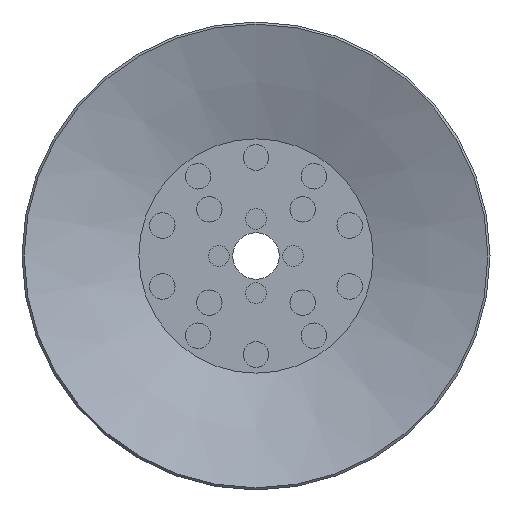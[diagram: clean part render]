
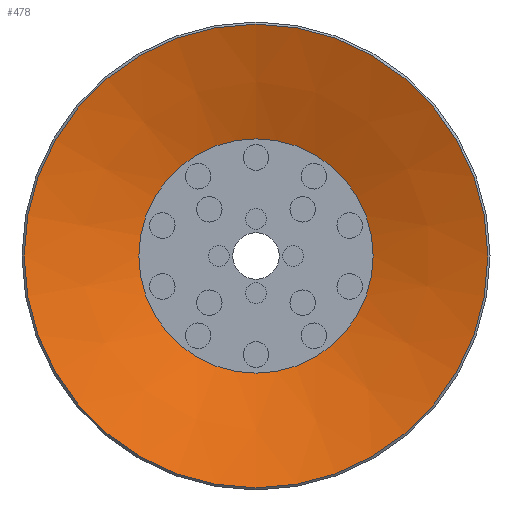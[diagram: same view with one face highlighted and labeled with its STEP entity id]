
A CAD part, front view. The second image highlights one B-rep face of the part: STEP entity #478.
In plain terms, the highlighted conical face has half-angle 70 degrees and reference radius 10 mm.
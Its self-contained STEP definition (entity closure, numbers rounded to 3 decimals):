
#478=ADVANCED_FACE('',(#726,#727),#728,.F.);
#726=FACE_BOUND('',#1083,.T.);
#727=FACE_OUTER_BOUND('',#1084,.T.);
#728=CONICAL_SURFACE('',#1085,10.0,1.222);
#1083=EDGE_LOOP('',(#1807));
#1084=EDGE_LOOP('',(#1808));
#1085=AXIS2_PLACEMENT_3D('',#1809,#1810,#1811);
#1807=ORIENTED_EDGE('',*,*,#2240,.T.);
#1808=ORIENTED_EDGE('',*,*,#2241,.F.);
#1809=CARTESIAN_POINT('',(0.0,0.,0.));
#1810=DIRECTION('',(0.0,0.,-1.0));
#1811=DIRECTION('',(0.0,1.0,0.));
#2240=EDGE_CURVE('',#2559,#2559,#2560,.T.);
#2241=EDGE_CURVE('',#2561,#2561,#2562,.T.);
#2559=VERTEX_POINT('',#3279);
#2560=CIRCLE('',#3280,5.055);
#2561=VERTEX_POINT('',#3281);
#2562=CIRCLE('',#3282,10.0);
#3279=CARTESIAN_POINT('',(0.0,-5.055,1.8));
#3280=AXIS2_PLACEMENT_3D('',#3603,#3604,#3605);
#3281=CARTESIAN_POINT('',(0.0,-10.0,0.));
#3282=AXIS2_PLACEMENT_3D('',#3606,#3607,#3608);
#3603=CARTESIAN_POINT('',(0.0,0.,1.8));
#3604=DIRECTION('',(0.0,0.,1.0));
#3605=DIRECTION('',(0.0,-1.0,0.));
#3606=CARTESIAN_POINT('',(0.0,0.,0.));
#3607=DIRECTION('',(0.0,0.,1.0));
#3608=DIRECTION('',(0.0,-1.0,0.));
